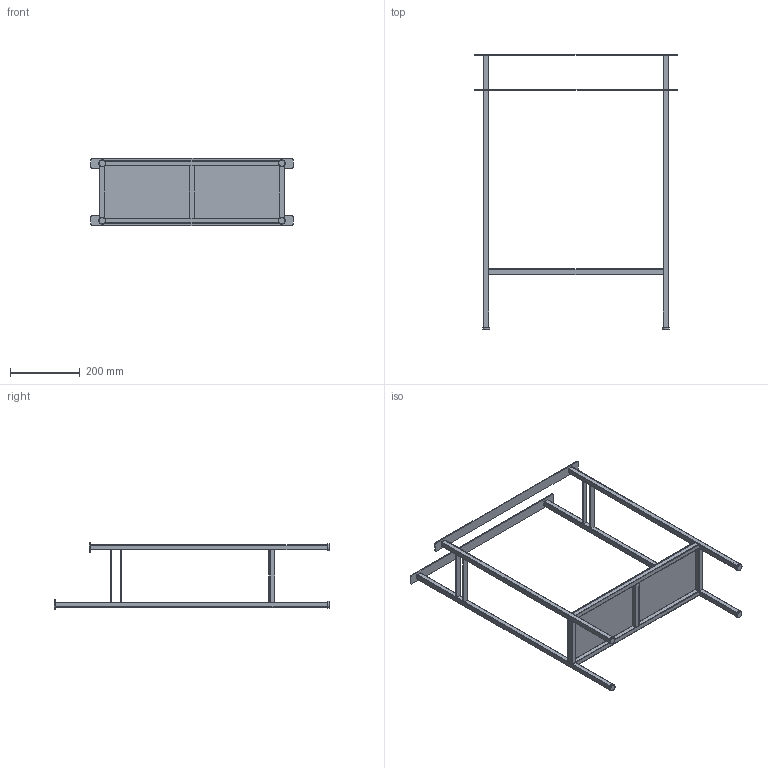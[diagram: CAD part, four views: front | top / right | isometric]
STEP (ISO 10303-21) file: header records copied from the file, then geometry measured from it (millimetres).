
FILE_DESCRIPTION (( 'STEP AP214' ), '1' );
FILE_NAME ('Stojak na rêczniki TAMANDI.STEP', '2023-09-11T10:38:19', ( '' ), ( '' ), 'SwSTEP 2.0', 'SolidWorks 2021', '' );
FILE_SCHEMA (( 'AUTOMOTIVE_DESIGN' ));
Length unit declared in the file: millimetre
Products named in the file (11): 02-012-0580-S-00-08; 02-012-0580-S-00-06; 02-012-0580-S-00-05; nitonakrêtka m6; 02-012-0580-S-00-01; stopka meblowa m6; 02-012-0580-S-00-04; 02-012-0580-S-00-02; Stojak na rêczniki TAMANDI; 02-012-0580-S-00-03; 02-012-0580-S-00-07
Assembly tree (28 placements, depth 2):
  Stojak na rêczniki TAMANDI
    02-012-0580-S-00-01  x2
    02-012-0580-S-00-02  x2
    02-012-0580-S-00-03  x3
    02-012-0580-S-00-04  x2
    02-012-0580-S-00-05  x4
    02-012-0580-S-00-06  x2
    02-012-0580-S-00-07
    nitonakrêtka m6  x4
    stopka meblowa m6  x4
    02-012-0580-S-00-08  x4
Bounding box: 580 x 790.3 x 195 mm (x, y, z)
Volume: 672248.4 mm3; surface area: 769706.6 mm2
Topology: 28 solids, 28 shells, 320 faces, 744 edges, 488 vertices
Faces by surface type: plane 188, cylinder 108, torus 24
Entity records: 4118 total; most frequent: DIRECTION 674, CARTESIAN_POINT 629, ORIENTED_EDGE 576, EDGE_CURVE 288, AXIS2_PLACEMENT_3D 235, LINE 204, VECTOR 204, VERTEX_POINT 190
